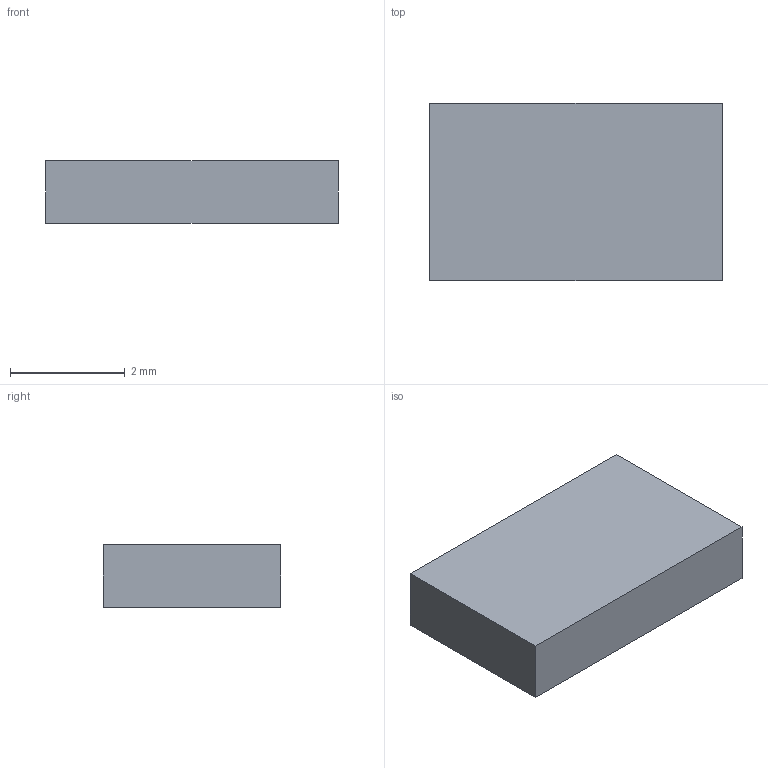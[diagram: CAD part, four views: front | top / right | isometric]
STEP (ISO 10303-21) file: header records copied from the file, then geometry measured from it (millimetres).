
FILE_DESCRIPTION(('Open CASCADE Model'),'2;1');
FILE_NAME('Open CASCADE Shape Model','2026-09-17T14:57:39',('Author'),( 'Open CASCADE'),'Open CASCADE STEP processor 7.8','Open CASCADE 7.8' ,'Unknown');
FILE_SCHEMA(('AUTOMOTIVE_DESIGN { 1 0 10303 214 1 1 1 1 }'));
Length unit declared in the file: millimetre
Products named in the file (1): Open CASCADE STEP translator 7.8 31
Bounding box: 5.1 x 3.1 x 1.1 mm (x, y, z)
Volume: 17.4 mm3; surface area: 49.7 mm2
Topology: 1 solids, 1 shells, 6 faces, 12 edges, 8 vertices
Faces by surface type: plane 6
Entity records: 322 total; most frequent: CARTESIAN_POINT 51, DIRECTION 50, LINE 36, VECTOR 36, ORIENTED_EDGE 24, PCURVE 24, DEFINITIONAL_REPRESENTATION 24, EDGE_CURVE 12
